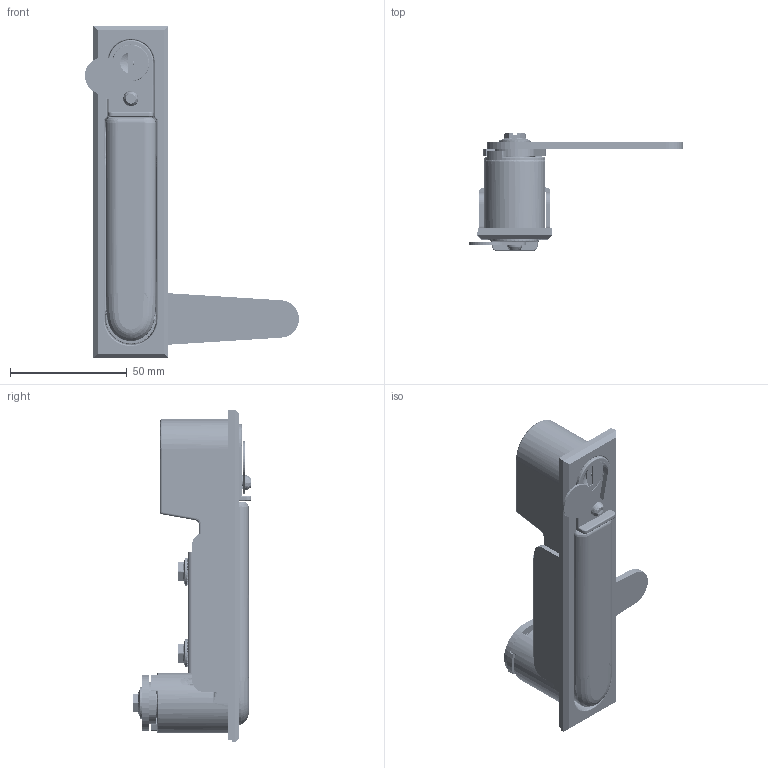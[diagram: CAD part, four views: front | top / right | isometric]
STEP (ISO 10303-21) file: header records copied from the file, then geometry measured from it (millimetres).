
FILE_DESCRIPTION (( 'STEP AP203' ), '1' );
FILE_NAME ('MS818A1A720003+MS818-1S+3D.STEP', '2021-08-09T09:44:03', ( '' ), ( '' ), 'SwSTEP 2.0', 'SolidWorks 2020', '' );
FILE_SCHEMA (( 'CONFIG_CONTROL_DESIGN' ));
Length unit declared in the file: millimetre
Products named in the file (32): FANGCHENDIAN; 8SJ_L2J0720_0712_DEFAULT; GAIBAN; BIAOQIAN; 8SJ_L2J0720_0710_DEFAULT; HUAKUAITANHUANG_TC06; 304GUDINGPIAN; 8SJ_L2J0720_0270; 818NIUHUANG; TC05LUODING; 818XIAOZI; M5X12; M6X10; 8SJ_L2J0720_0080; 818ZHUANZHOU; 5SJ_L2J0720_0060_ASM; ____3; S1C7200GANGS; MS818A1A720003+MS818-1S+3D; 818DINGWEIJIAN; 8SJ_L2J0720_0040; TC05TANHUANG_AF0; SHOUBING; 818YABAN; TC05ZUJIAN_ASM; 818-1; 8SJ_L2F0720_0250_DEFAULT; OXINGQUAN; ____2; 8SJ_L1D1160_0710; SHUOKE; M3X6
Assembly tree (50 placements, depth 4):
  MS818A1A720003+MS818-1S+3D
    818-1
    818ZHUANZHOU
    SHOUBING
    818NIUHUANG
    818XIAOZI
    OXINGQUAN
    818DINGWEIJIAN
    FANGCHENDIAN
    818YABAN
    M5X12  x2
    M6X10
    M3X6  x2
    TC05ZUJIAN_ASM
      SHUOKE
      GAIBAN
      TC05LUODING
      TC05TANHUANG_AF0
      HUAKUAITANHUANG_TC06  x2
      5SJ_L2J0720_0060_ASM
        ____2  x3
        ____3  x3
        8SJ_L2J0720_0270  x4
        8SJ_L2J0720_0710_DEFAULT  x10
        8SJ_L2J0720_0040
        304GUDINGPIAN
        8SJ_L1D1160_0710
        8SJ_L2F0720_0250_DEFAULT
        8SJ_L2J0720_0080
        8SJ_L2J0720_0712_DEFAULT
    S1C7200GANGS
    BIAOQIAN
Bounding box: 91.61 x 50.6 x 142 mm (x, y, z)
Volume: 28178.8 mm3; surface area: 70491.7 mm2
Topology: 67 solids, 97 shells, 3381 faces, 8865 edges, 5326 vertices
Faces by surface type: plane 1374, bspline 1174, cylinder 784, cone 46, torus 3
Entity records: 141319 total; most frequent: CARTESIAN_POINT 82110, ORIENTED_EDGE 12952, DIRECTION 9553, EDGE_CURVE 6505, VERTEX_POINT 4082, AXIS2_PLACEMENT_3D 3238, VECTOR 3077, LINE 3077
